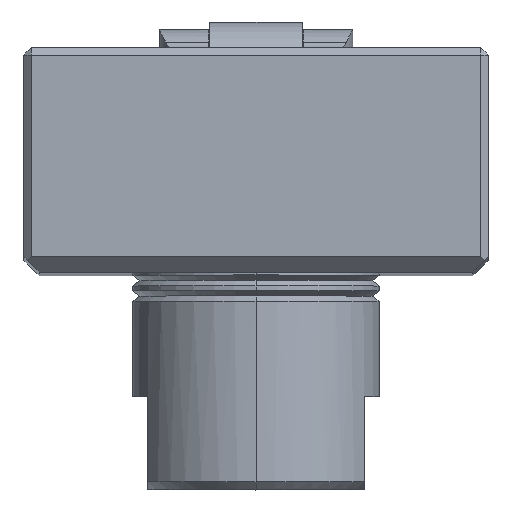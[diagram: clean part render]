
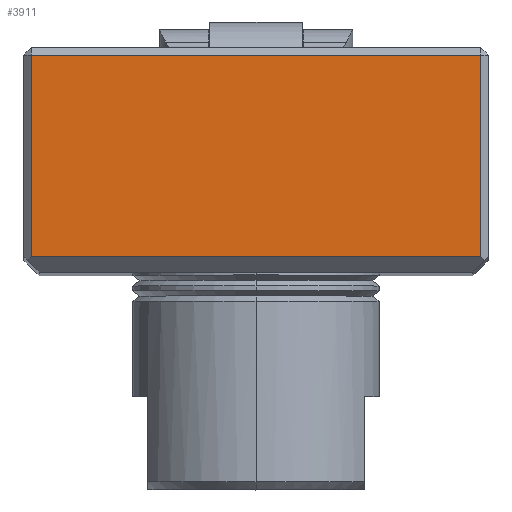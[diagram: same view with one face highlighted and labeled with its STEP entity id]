
A CAD part, top view. The second image highlights one B-rep face of the part: STEP entity #3911.
In plain terms, the highlighted planar face has unit normal (0, 0, 1).
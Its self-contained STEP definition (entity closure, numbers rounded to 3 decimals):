
#278 = DIRECTION ( 'NONE',  ( -1., 0., 0. ) ) ;
#279 = DIRECTION ( 'NONE',  ( 0., 0., -1. ) ) ;
#280 = CARTESIAN_POINT ( 'NONE',  ( 15., 0., 70. ) ) ;
#281 = AXIS2_PLACEMENT_3D ( 'NONE', #280, #279, #278 ) ;
#282 = PLANE ( 'NONE',  #281 ) ;
#283 = FACE_OUTER_BOUND ( 'NONE', #3912, .T. ) ;
#324 = DIRECTION ( 'NONE',  ( -1., 0., 0. ) ) ;
#325 = VECTOR ( 'NONE', #324, 1000. ) ;
#326 = CARTESIAN_POINT ( 'NONE',  ( -15., 14., 70. ) ) ;
#327 = LINE ( 'NONE', #326, #325 ) ;
#328 = CARTESIAN_POINT ( 'NONE',  ( 14.5, 14., 70. ) ) ;
#329 = DIRECTION ( 'NONE',  ( 0., 1., 0. ) ) ;
#330 = VECTOR ( 'NONE', #329, 1000. ) ;
#331 = CARTESIAN_POINT ( 'NONE',  ( 14.5, 14.5, 70. ) ) ;
#332 = LINE ( 'NONE', #331, #330 ) ;
#333 = CARTESIAN_POINT ( 'NONE',  ( 14.5, 1., 70. ) ) ;
#334 = DIRECTION ( 'NONE',  ( 1., 0., 0. ) ) ;
#335 = VECTOR ( 'NONE', #334, 1000. ) ;
#336 = CARTESIAN_POINT ( 'NONE',  ( 14.5, 1., 70. ) ) ;
#337 = LINE ( 'NONE', #336, #335 ) ;
#338 = CARTESIAN_POINT ( 'NONE',  ( -14.5, 1., 70. ) ) ;
#339 = CARTESIAN_POINT ( 'NONE',  ( -14.5, 14., 70. ) ) ;
#340 = DIRECTION ( 'NONE',  ( 0., -1., 0. ) ) ;
#341 = VECTOR ( 'NONE', #340, 1000. ) ;
#342 = CARTESIAN_POINT ( 'NONE',  ( -14.5, 0., 70. ) ) ;
#343 = LINE ( 'NONE', #342, #341 ) ;
#3893 = EDGE_CURVE ( 'NONE', #3894, #3895, #343, .T. ) ;
#3894 = VERTEX_POINT ( 'NONE', #339 ) ;
#3895 = VERTEX_POINT ( 'NONE', #338 ) ;
#3896 = ORIENTED_EDGE ( 'NONE', *, *, #3897, .T. ) ;
#3897 = EDGE_CURVE ( 'NONE', #3895, #3898, #337, .T. ) ;
#3898 = VERTEX_POINT ( 'NONE', #333 ) ;
#3899 = ORIENTED_EDGE ( 'NONE', *, *, #3900, .T. ) ;
#3900 = EDGE_CURVE ( 'NONE', #3898, #3901, #332, .T. ) ;
#3901 = VERTEX_POINT ( 'NONE', #328 ) ;
#3902 = ORIENTED_EDGE ( 'NONE', *, *, #3903, .T. ) ;
#3903 = EDGE_CURVE ( 'NONE', #3901, #3894, #327, .T. ) ;
#3911 = ADVANCED_FACE ( 'NONE', ( #283 ), #282, .F. ) ;
#3912 = EDGE_LOOP ( 'NONE', ( #3913, #3896, #3899, #3902 ) ) ;
#3913 = ORIENTED_EDGE ( 'NONE', *, *, #3893, .T. ) ;
